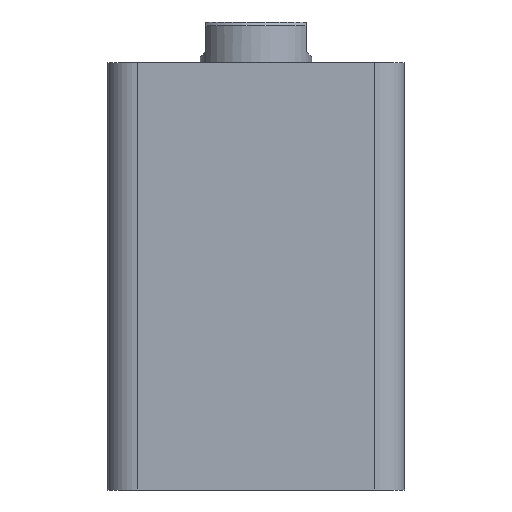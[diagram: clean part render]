
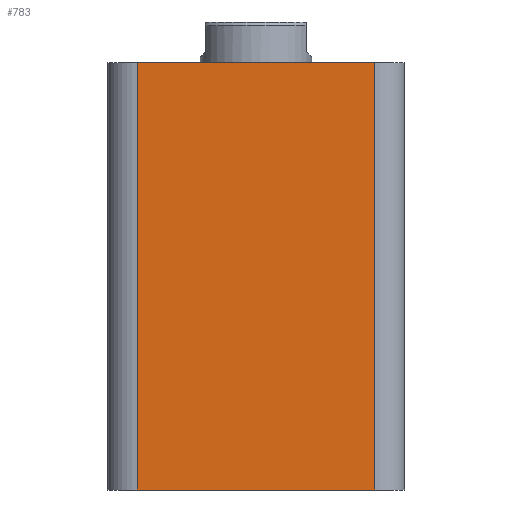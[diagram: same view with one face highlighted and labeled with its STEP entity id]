
A CAD part, front view. The second image highlights one B-rep face of the part: STEP entity #783.
In plain terms, the highlighted planar face has unit normal (0, -1, 0).
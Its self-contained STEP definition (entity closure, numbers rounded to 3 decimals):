
#21 = VERTEX_POINT ( 'NONE', #1716 ) ;
#52 = VERTEX_POINT ( 'NONE', #1720 ) ;
#97 = VERTEX_POINT ( 'NONE', #1609 ) ;
#330 = VECTOR ( 'NONE', #2246, 1000. ) ;
#332 = VECTOR ( 'NONE', #2258, 1000. ) ;
#334 = LINE ( 'NONE', #2247, #330 ) ;
#341 = VECTOR ( 'NONE', #2257, 1000. ) ;
#342 = LINE ( 'NONE', #2251, #332 ) ;
#344 = LINE ( 'NONE', #2261, #341 ) ;
#367 = VECTOR ( 'NONE', #2176, 1000. ) ;
#372 = LINE ( 'NONE', #2178, #367 ) ;
#533 = EDGE_CURVE ( 'NONE', #97, #52, #372, .T. ) ;
#549 = EDGE_CURVE ( 'NONE', #97, #21, #344, .T. ) ;
#552 = EDGE_CURVE ( 'NONE', #21, #1514, #342, .T. ) ;
#553 = EDGE_CURVE ( 'NONE', #1514, #52, #334, .T. ) ;
#704 = AXIS2_PLACEMENT_3D ( 'NONE', #1074, #1065, #1061 ) ;
#783 = ADVANCED_FACE ( 'NONE', ( #2530 ), #1067, .F. ) ;
#944 = CARTESIAN_POINT ( 'NONE',  ( 32., -40., 0. ) ) ;
#1061 = DIRECTION ( 'NONE',  ( 0., 0., 1. ) ) ;
#1065 = DIRECTION ( 'NONE',  ( 0., 1., 0. ) ) ;
#1067 = PLANE ( 'NONE',  #704 ) ;
#1074 = CARTESIAN_POINT ( 'NONE',  ( -40., -40., 115. ) ) ;
#1213 = ORIENTED_EDGE ( 'NONE', *, *, #553, .T. ) ;
#1223 = ORIENTED_EDGE ( 'NONE', *, *, #549, .T. ) ;
#1224 = ORIENTED_EDGE ( 'NONE', *, *, #552, .T. ) ;
#1226 = ORIENTED_EDGE ( 'NONE', *, *, #533, .F. ) ;
#1418 = EDGE_LOOP ( 'NONE', ( #1226, #1223, #1224, #1213 ) ) ;
#1514 = VERTEX_POINT ( 'NONE', #944 ) ;
#1609 = CARTESIAN_POINT ( 'NONE',  ( -32., -40., 115. ) ) ;
#1716 = CARTESIAN_POINT ( 'NONE',  ( -32., -40., 0. ) ) ;
#1720 = CARTESIAN_POINT ( 'NONE',  ( 32., -40., 115. ) ) ;
#2176 = DIRECTION ( 'NONE',  ( 1., 0., 0. ) ) ;
#2178 = CARTESIAN_POINT ( 'NONE',  ( -40., -40., 115. ) ) ;
#2246 = DIRECTION ( 'NONE',  ( 0., 0., 1. ) ) ;
#2247 = CARTESIAN_POINT ( 'NONE',  ( 32., -40., 115. ) ) ;
#2251 = CARTESIAN_POINT ( 'NONE',  ( -40., -40., 0. ) ) ;
#2257 = DIRECTION ( 'NONE',  ( 0., 0., -1. ) ) ;
#2258 = DIRECTION ( 'NONE',  ( 1., 0., 0. ) ) ;
#2261 = CARTESIAN_POINT ( 'NONE',  ( -32., -40., 115. ) ) ;
#2530 = FACE_OUTER_BOUND ( 'NONE', #1418, .T. ) ;
